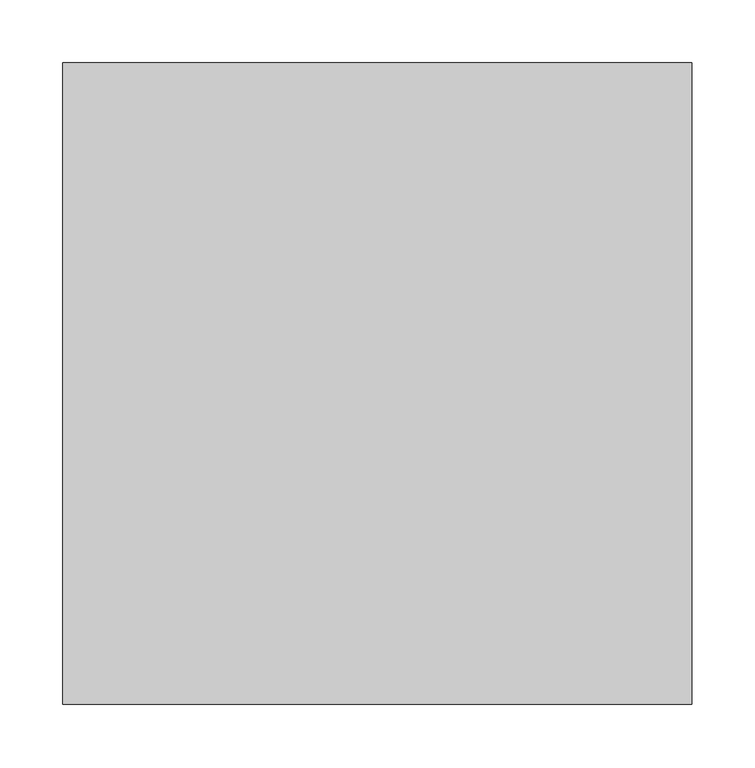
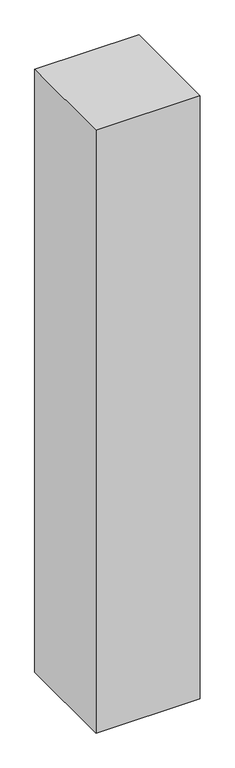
"""IFC4 building model written with IfcOpenShell, lengths in millimetres: proxy geometry."""

from ifc_helpers import new_model, si_unit, origin, origin_with_axes, place, context, project, spatial, polyline, outline, extrude, source, transform, mapped, element, save


def generic_models_fec14973(model_context):
    return source(origin(), model_context, "Body", "SweptSolid", [
        extrude(outline(polyline([(-8452.9988284, -15699.999999), (-8952.9988284, -15699.999999), (-8952.9988284, -15189.999999), (-8452.9988284, -15189.999999), (-8452.9988284, -15699.999999)])), origin_with_axes(), (0.0, 0.0, 1.0), 3060.0),
    ])


if __name__ == "__main__":
    model = new_model("IFC4")
    model_context = context("Model", 3, world=origin())
    ifc_project = project(units=[si_unit("LENGTHUNIT", "METRE", prefix="MILLI")], contexts=[model_context])
    site = spatial("IfcSite", under=ifc_project)
    building = spatial("IfcBuilding", under=site)
    placement = place(None, origin())
    generic_models_shape = generic_models_fec14973(model_context)
    element("IfcBuildingElementProxy", 1, Name="Generic Models", at=placement, inside=building, context=model_context, shape_type="MappedRepresentation", body=[
        mapped(generic_models_shape, transform((0.0, 0.0, 0.0), x_axis=(1.0, 0.0, 0.0), y_axis=(0.0, 1.0, 0.0), z_axis=(0.0, 0.0, 1.0))),
    ])
    save(model, "model.ifc")
